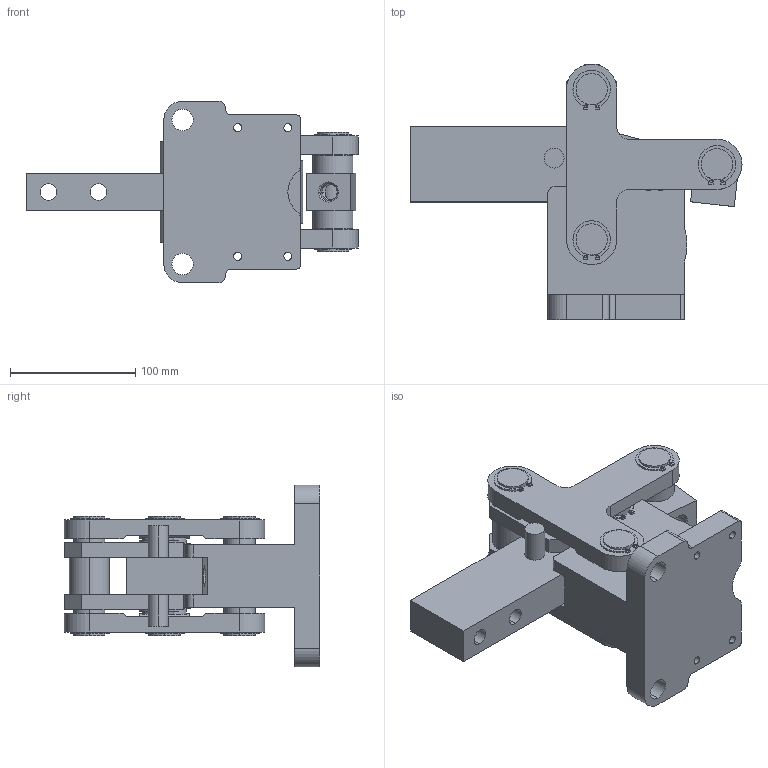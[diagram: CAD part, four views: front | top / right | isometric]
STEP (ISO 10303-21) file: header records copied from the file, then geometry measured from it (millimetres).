
FILE_DESCRIPTION (( 'STEP AP203' ), '1' );
FILE_NAME ('46200.W0008.step', '2016-05-09T10:17:19', ( 'User' ), ( '' ), 'SwSTEP 2.0', 'SolidWorks 2009', '' );
FILE_SCHEMA (( 'CONFIG_CONTROL_DESIGN' ));
Length unit declared in the file: millimetre
Products named in the file (1): 46200.W0008
Bounding box: 265 x 204 x 145 mm (x, y, z)
Volume: 1535916.8 mm3; surface area: 242551.2 mm2
Topology: 5 solids, 5 shells, 373 faces, 955 edges, 634 vertices
Faces by surface type: plane 192, cylinder 177, cone 4
Entity records: 11630 total; most frequent: DIRECTION 2077, CARTESIAN_POINT 2035, ORIENTED_EDGE 1910, EDGE_CURVE 955, AXIS2_PLACEMENT_3D 750, VERTEX_POINT 634, VECTOR 577, LINE 577
